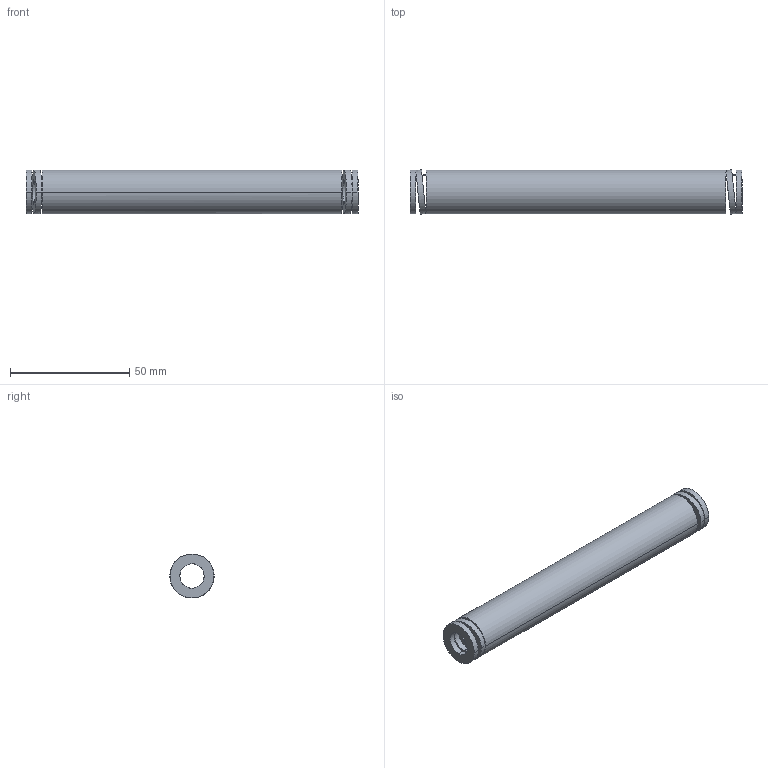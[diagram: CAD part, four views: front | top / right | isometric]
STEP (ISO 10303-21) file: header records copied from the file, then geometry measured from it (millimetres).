
FILE_DESCRIPTION(('CATIA V5 STEP Exchange'),'2;1');
FILE_NAME('C:\Users\Utente\Desktop\IO LAVORO\3D X SITO CF\X SITO\3D files 392B\392-B20-139.stp','2021-08-12T13:44:40+00:00',('none'),('none'),'CATIA Version 5 Release 20 GA (IN-10)','CATIA V5 STEP AP203','none');
FILE_SCHEMA(('CONFIG_CONTROL_DESIGN'));
Length unit declared in the file: millimetre
Products named in the file (1): 392-B20-139
Bounding box: 139 x 18.55 x 18.4 mm (x, y, z)
Volume: 24890.1 mm3; surface area: 13985.6 mm2
Topology: 1 solids, 1 shells, 38 faces, 92 edges, 64 vertices
Faces by surface type: cylinder 28, plane 10
Entity records: 1602 total; most frequent: CARTESIAN_POINT 721, ORIENTED_EDGE 184, DIRECTION 125, EDGE_CURVE 92, VERTEX_POINT 64, AXIS2_PLACEMENT_3D 60, EDGE_LOOP 56, B_SPLINE_CURVE_WITH_KNOTS 43
